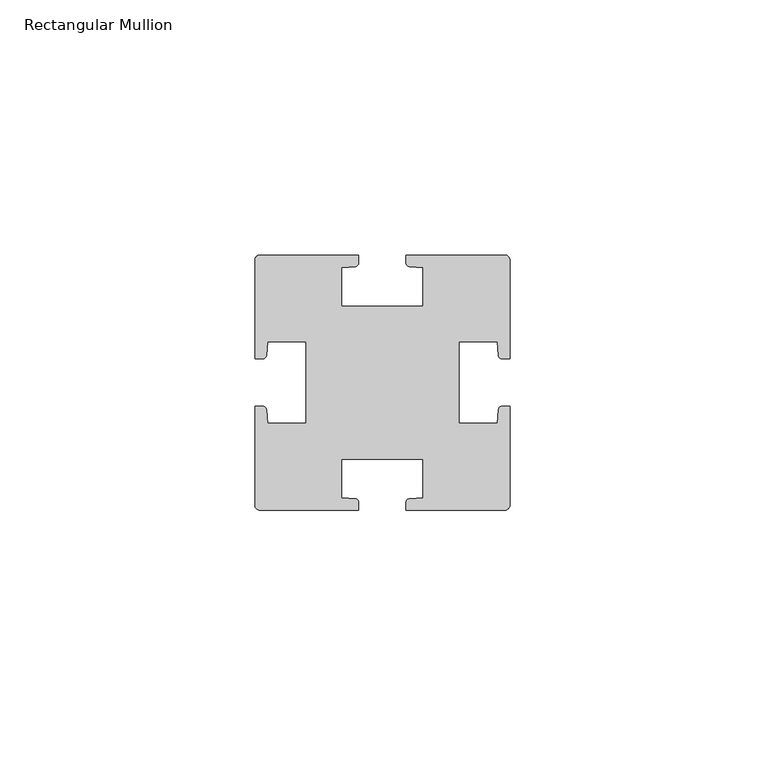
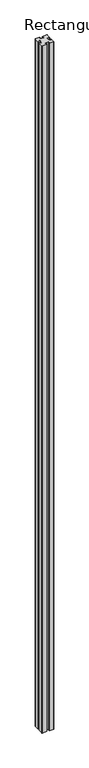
"""IFC4 building model written with IfcOpenShell, lengths in millimetres: member geometry, Rectangular Mullion : RSen_21_CWM_support profile - 50x50 - right_duco projects."""

import ifcopenshell
import ifcopenshell.guid

model = None  # the IFC model being written
_history = None  # IfcOwnerHistory: only IFC2X3 demands one
_inside = {}  # id of a spatial element -> (the spatial element, [elements in it])
_under = {}  # id of a project, library or spatial element -> (it, [spatial elements below it])
_declared = {}  # id of a project -> (the project, [libraries it declares])
_typed = {}  # id of a type object -> (the type object, [elements of that type])
_made_of = {}  # id of a material, layer set ... -> (it, [elements and type objects made of it])


def new_model(schema):
    """Start an empty IFC model of exactly this schema.

    Asked for "IFC4X3", IfcOpenShell would pick the latest addendum, in which some entities
    have other attributes; the version numbers below select the first issue.
    IFC2X3 requires an IfcOwnerHistory on every rooted entity: one is made here for all.
    """
    global model, _history
    if schema == "IFC4X3":
        model = ifcopenshell.file(schema_version=(4, 3, 0, 0))
    else:
        model = ifcopenshell.file(schema=schema)
    _inside.clear()
    _under.clear()
    _declared.clear()
    _typed.clear()
    _made_of.clear()
    _history = None
    if model.schema == "IFC2X3":
        org = make("IfcOrganization", Name="unknown")
        user = make(
            "IfcPersonAndOrganization",
            ThePerson=make("IfcPerson", FamilyName="unknown"),
            TheOrganization=org,
        )
        app = make(
            "IfcApplication",
            ApplicationDeveloper=org,
            Version="unknown",
            ApplicationFullName="unknown",
            ApplicationIdentifier="unknown",
        )
        _history = make(
            "IfcOwnerHistory",
            OwningUser=user,
            OwningApplication=app,
            ChangeAction="ADDED",
            CreationDate=0,
        )
    return model


def make(cls, **values):
    """One entity of the class cls with the attributes given. An attribute that is None is left unset."""
    return model.create_entity(
        cls, **{name: value for name, value in values.items() if value is not None}
    )


def rooted(cls, **values):
    """An entity with a GlobalId (a new one), such as an element, a storey or a relation."""
    return make(cls, GlobalId=ifcopenshell.guid.new(), OwnerHistory=_history, **values)


def si_unit(unit_type, name, prefix=None):
    """IfcSIUnit, for example si_unit("LENGTHUNIT", "METRE", prefix="MILLI")."""
    return make("IfcSIUnit", UnitType=unit_type, Prefix=prefix, Name=name)


def assignment(units):
    """IfcUnitAssignment: the units of a project."""
    return None if units is None else make("IfcUnitAssignment", Units=units)


def point(xyz):
    """IfcCartesianPoint."""
    return None if xyz is None else make("IfcCartesianPoint", Coordinates=xyz)


def direction(xyz):
    """IfcDirection."""
    return None if xyz is None else make("IfcDirection", DirectionRatios=xyz)


def frame(location, z_axis=None, x_axis=None):
    """IfcAxis2Placement3D, a coordinate frame: its origin and axes. An axis left out is left unset."""
    return make(
        "IfcAxis2Placement3D",
        Location=point(location),
        Axis=direction(z_axis),
        RefDirection=direction(x_axis),
    )


def frame_2d(location, x_axis=None):
    """IfcAxis2Placement2D, a coordinate frame in the plane: its origin and x axis."""
    return make(
        "IfcAxis2Placement2D", Location=point(location), RefDirection=direction(x_axis)
    )


def origin():
    """The frame at (0, 0, 0) with its axes left unset."""
    return frame((0.0, 0.0, 0.0))


def place(relative_to, where):
    """IfcLocalPlacement: puts the frame where relative to a parent placement (None: the world)."""
    return make(
        "IfcLocalPlacement", PlacementRelTo=relative_to, RelativePlacement=where
    )


def context(
    kind, dimensions, precision=None, world=None, true_north=None, identifier=None
):
    """IfcGeometricRepresentationContext, for example the 3D "Model" context."""
    return make(
        "IfcGeometricRepresentationContext",
        ContextIdentifier=identifier,
        ContextType=kind,
        CoordinateSpaceDimension=dimensions,
        Precision=precision,
        WorldCoordinateSystem=world,
        TrueNorth=true_north,
    )


def project(units=None, contexts=None):
    """IfcProject with its units and contexts."""
    return rooted(
        "IfcProject",
        Name="project",
        RepresentationContexts=contexts,
        UnitsInContext=assignment(units),
    )


def spatial(cls, under=None, at=None, **own):
    """A site, building, storey or space (cls), placed at a placement, below another one or the project."""
    s = rooted(cls, ObjectPlacement=at, **own)
    if under is not None:
        _under.setdefault(under.id(), (under, []))[1].append(s)
    return s


def polyline(points):
    """IfcPolyline through the points."""
    return make("IfcPolyline", Points=[point(p) for p in points])


def circle_curve(where, radius):
    """IfcCircle in the frame where."""
    return make("IfcCircle", Position=where, Radius=radius)


def trimmed(basis, trim1, trim2, sense, master):
    """IfcTrimmedCurve: the piece of a basis curve between two trims."""
    return make(
        "IfcTrimmedCurve",
        BasisCurve=basis,
        Trim1=trim1,
        Trim2=trim2,
        SenseAgreement=sense,
        MasterRepresentation=master,
    )


def segment(curve, same_sense, transition):
    """IfcCompositeCurveSegment."""
    return make(
        "IfcCompositeCurveSegment",
        Transition=transition,
        SameSense=same_sense,
        ParentCurve=curve,
    )


def composite_curve(segments, self_intersect=None):
    """IfcCompositeCurve: segments joined end to end."""
    return make("IfcCompositeCurve", Segments=segments, SelfIntersect=self_intersect)


def outline(outer, holes=None, kind="AREA"):
    """IfcArbitraryClosedProfileDef: a profile drawn as a closed curve; with holes, ...WithVoids."""
    if holes is None:
        return make("IfcArbitraryClosedProfileDef", ProfileType=kind, OuterCurve=outer)
    return make(
        "IfcArbitraryProfileDefWithVoids",
        ProfileType=kind,
        OuterCurve=outer,
        InnerCurves=holes,
    )


def extrude(swept, where, along, depth):
    """IfcExtrudedAreaSolid: the profile swept, set in the frame where, extruded along a direction by depth."""
    return make(
        "IfcExtrudedAreaSolid",
        SweptArea=swept,
        Position=where,
        ExtrudedDirection=direction(along),
        Depth=depth,
    )


def shape(context_of_items, identifier, shape_type, items):
    """IfcShapeRepresentation: the items that make up one representation, for example the "Body"."""
    return make(
        "IfcShapeRepresentation",
        ContextOfItems=context_of_items,
        RepresentationIdentifier=identifier,
        RepresentationType=shape_type,
        Items=items,
    )


def source(mapping_origin, context_of_items, identifier, shape_type, items):
    """IfcRepresentationMap: a shape defined once, which mapped items show again and again."""
    return make(
        "IfcRepresentationMap",
        MappingOrigin=mapping_origin,
        MappedRepresentation=shape(context_of_items, identifier, shape_type, items),
    )


def transform(
    local_origin,
    x_axis=None,
    y_axis=None,
    z_axis=None,
    scale=None,
    scale2=None,
    scale3=None,
    uniform=True,
):
    """IfcCartesianTransformationOperator3D, or its non-uniform kind. x_axis, y_axis, z_axis: its Axis1, 2, 3."""
    if uniform:
        return make(
            "IfcCartesianTransformationOperator3D",
            Axis1=direction(x_axis),
            Axis2=direction(y_axis),
            LocalOrigin=point(local_origin),
            Scale=scale,
            Axis3=direction(z_axis),
        )
    return make(
        "IfcCartesianTransformationOperator3DnonUniform",
        Axis1=direction(x_axis),
        Axis2=direction(y_axis),
        LocalOrigin=point(local_origin),
        Scale=scale,
        Axis3=direction(z_axis),
        Scale2=scale2,
        Scale3=scale3,
    )


def mapped(mapping_source, mapping_target):
    """IfcMappedItem: shows the shape of a source again, moved by a transform."""
    return make(
        "IfcMappedItem", MappingSource=mapping_source, MappingTarget=mapping_target
    )


def made_of(thing, what):
    """Note that an element or type object is made of a material, layer set ...; save() writes the relation."""
    if what is not None:
        _made_of.setdefault(what.id(), (what, []))[1].append(thing)
    return thing


def element(
    cls,
    number,
    at=None,
    inside=None,
    cuts=None,
    type_object=None,
    material=None,
    context=None,
    identifier="Body",
    shape_type=None,
    held_by="IfcProductDefinitionShape",
    body=None,
    shapes=None,
    **own,
):
    """One element of the class cls, such as IfcWall. Its Tag is "e" and its number.

    at: its placement. inside: the storey or other place that contains it. cuts: it is an
    opening in that element (IfcRelVoidsElement). A single representation is given by context,
    identifier, shape_type and body (its items); several are given by shapes. held_by: the class
    of the entity that holds the representations. save() writes the other relations.
    """
    e = rooted(cls, Tag="e%d" % number, ObjectPlacement=at, **own)
    if body is not None:
        shapes = [shape(context, identifier, shape_type, body)]
    if shapes is not None:
        e.Representation = make(held_by, Representations=shapes)
    if inside is not None:
        _inside.setdefault(inside.id(), (inside, []))[1].append(e)
    if cuts is not None:
        rooted(
            "IfcRelVoidsElement", RelatingBuildingElement=cuts, RelatedOpeningElement=e
        )
    if type_object is not None:
        _typed.setdefault(type_object.id(), (type_object, []))[1].append(e)
    return made_of(e, material)


def aggregate(whole, parts):
    """IfcRelAggregates: a whole, such as a stair, and the parts it consists of."""
    return rooted("IfcRelAggregates", RelatingObject=whole, RelatedObjects=parts)


def save(model, path):
    """Write the relations noted so far, then the file.

    IfcRelAggregates (storeys below a building ...), IfcRelContainedInSpatialStructure (elements
    in a storey), IfcRelDefinesByType, IfcRelAssociatesMaterial and IfcRelDeclares: one each for
    every whole, place, type object, material and project.
    """
    for whole, parts in _under.values():
        aggregate(whole, parts)
    for where, things in _inside.values():
        rooted(
            "IfcRelContainedInSpatialStructure",
            RelatedElements=things,
            RelatingStructure=where,
        )
    for kind, things in _typed.values():
        rooted("IfcRelDefinesByType", RelatedObjects=things, RelatingType=kind)
    for what, things in _made_of.values():
        rooted("IfcRelAssociatesMaterial", RelatedObjects=things, RelatingMaterial=what)
    for by, libraries in _declared.values():
        rooted("IfcRelDeclares", RelatingContext=by, RelatedDefinitions=libraries)
    model.write(path)


def rectangular_mullion_73b5f130(model_context):
    return source(origin(), model_context, "Body", "SweptSolid", [
        extrude(outline(composite_curve([segment(polyline([(-100.0, -28.65), (-98.4527606, -28.65)]), True, "CONTINUOUS"), segment(trimmed(circle_curve(frame_2d((-98.4527606, -29.35)), 0.7), [point((-98.4527606, -28.65))], [point((-97.7544657, -29.3011705))], False, "CARTESIAN"), True, "CONTINUOUS"), segment(polyline([(-97.7544657, -29.3011705), (-97.5657452, -32.0), (-90.0, -32.0), (-90.0, -16.0), (-97.5657452, -16.0), (-97.7544657, -18.6988295)]), True, "CONTINUOUS"), segment(trimmed(circle_curve(frame_2d((-98.4527606, -18.65)), 0.7), [point((-97.7544657, -18.6988295))], [point((-98.4527606, -19.35))], False, "CARTESIAN"), True, "CONTINUOUS"), segment(polyline([(-98.4527606, -19.35), (-100.0, -19.35), (-100.0, 0.0)]), True, "CONTINUOUS"), segment(trimmed(circle_curve(frame_2d((-99.0, 0.0)), 1.0), [point((-100.0, 0.0))], [point((-99.0, 1.0))], False, "CARTESIAN"), True, "CONTINUOUS"), segment(polyline([(-99.0, 1.0), (-79.65, 1.0), (-79.65, -0.5472394)]), True, "CONTINUOUS"), segment(trimmed(circle_curve(frame_2d((-80.35, -0.5472394)), 0.7), [point((-79.65, -0.5472394))], [point((-80.3011705, -1.2455343))], False, "CARTESIAN"), True, "CONTINUOUS"), segment(polyline([(-80.3011705, -1.2455343), (-83.0, -1.4342548), (-83.0, -9.0), (-67.0, -9.0), (-67.0, -1.4342548), (-69.6988295, -1.2455343)]), True, "CONTINUOUS"), segment(trimmed(circle_curve(frame_2d((-69.65, -0.5472394)), 0.7), [point((-69.6988295, -1.2455343))], [point((-70.35, -0.5472394))], False, "CARTESIAN"), True, "CONTINUOUS"), segment(polyline([(-70.35, -0.5472394), (-70.35, 1.0), (-51.0, 1.0)]), True, "CONTINUOUS"), segment(trimmed(circle_curve(frame_2d((-51.0, 0.0)), 1.0), [point((-51.0, 1.0))], [point((-50.0, 0.0))], False, "CARTESIAN"), True, "CONTINUOUS"), segment(polyline([(-50.0, 0.0), (-50.0, -19.35), (-51.5472394, -19.35)]), True, "CONTINUOUS"), segment(trimmed(circle_curve(frame_2d((-51.5472394, -18.65)), 0.7), [point((-51.5472394, -19.35))], [point((-52.2455343, -18.6988295))], False, "CARTESIAN"), True, "CONTINUOUS"), segment(polyline([(-52.2455343, -18.6988295), (-52.4342548, -16.0), (-60.0, -16.0), (-60.0, -32.0), (-52.4342548, -32.0), (-52.2455343, -29.3011705)]), True, "CONTINUOUS"), segment(trimmed(circle_curve(frame_2d((-51.5472394, -29.35)), 0.7), [point((-52.2455343, -29.3011705))], [point((-51.5472394, -28.65))], False, "CARTESIAN"), True, "CONTINUOUS"), segment(polyline([(-51.5472394, -28.65), (-50.0, -28.65), (-50.0, -48.0)]), True, "CONTINUOUS"), segment(trimmed(circle_curve(frame_2d((-51.0, -48.0)), 1.0), [point((-50.0, -48.0))], [point((-51.0, -49.0))], False, "CARTESIAN"), True, "CONTINUOUS"), segment(polyline([(-51.0, -49.0), (-70.35, -49.0), (-70.35, -47.4527606)]), True, "CONTINUOUS"), segment(trimmed(circle_curve(frame_2d((-69.65, -47.4527606)), 0.7), [point((-70.35, -47.4527606))], [point((-69.6988295, -46.7544657))], False, "CARTESIAN"), True, "CONTINUOUS"), segment(polyline([(-69.6988295, -46.7544657), (-67.0, -46.5657452), (-67.0, -39.0), (-83.0, -39.0), (-83.0, -46.5657452), (-80.3011705, -46.7544657)]), True, "CONTINUOUS"), segment(trimmed(circle_curve(frame_2d((-80.35, -47.4527606)), 0.7), [point((-80.3011705, -46.7544657))], [point((-79.65, -47.4527606))], False, "CARTESIAN"), True, "CONTINUOUS"), segment(polyline([(-79.65, -47.4527606), (-79.65, -49.0), (-99.0, -49.0)]), True, "CONTINUOUS"), segment(trimmed(circle_curve(frame_2d((-99.0, -48.0)), 1.0), [point((-99.0, -49.0))], [point((-100.0, -48.0))], False, "CARTESIAN"), True, "CONTINUOUS"), segment(polyline([(-100.0, -48.0), (-100.0, -28.65)]), True, "CONTINUOUS")], self_intersect=False)), frame((0.0, 0.0, -3000.0), z_axis=(0.0, 0.0, 1.0), x_axis=(1.0, 0.0, 0.0)), (0.0, 0.0, 1.0), 3000.0),
    ])


if __name__ == "__main__":
    model = new_model("IFC4")
    model_context = context("Model", 3, world=origin())
    ifc_project = project(units=[si_unit("LENGTHUNIT", "METRE", prefix="MILLI")], contexts=[model_context])
    site = spatial("IfcSite", under=ifc_project)
    building = spatial("IfcBuilding", under=site)
    placement = place(None, origin())
    rectangular_mullion_shape = rectangular_mullion_73b5f130(model_context)
    element("IfcMember", 1, ObjectType="Rectangular Mullion : RSen_21_CWM_support profile - 50x50 - right_duco projects", at=placement, inside=building, context=model_context, shape_type="MappedRepresentation", body=[
        mapped(rectangular_mullion_shape, transform((0.0, 0.0, 0.0), x_axis=(1.0, 0.0, 0.0), y_axis=(0.0, 1.0, 0.0), z_axis=(0.0, 0.0, 1.0))),
    ])
    save(model, "model.ifc")
